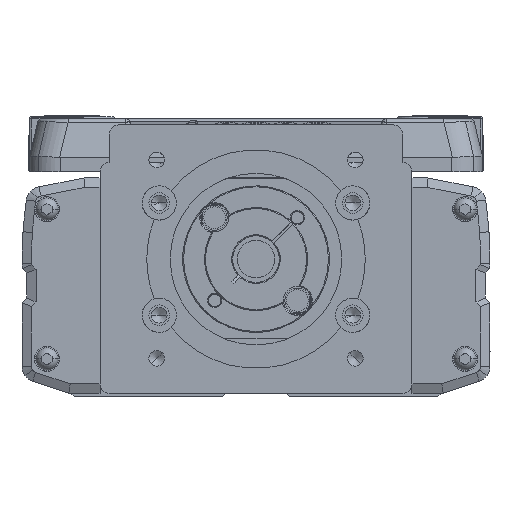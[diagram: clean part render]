
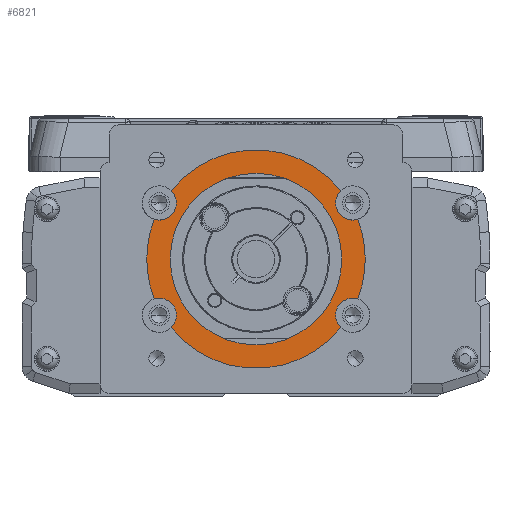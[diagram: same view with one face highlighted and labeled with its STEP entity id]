
A CAD part, left-side view. The second image highlights one B-rep face of the part: STEP entity #6821.
In plain terms, the highlighted planar face has unit normal (-1, 0, 0).
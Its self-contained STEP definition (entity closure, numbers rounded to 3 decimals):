
#6821=ADVANCED_FACE('',(#14572,#14573),#14574,.F.);
#14572=FACE_OUTER_BOUND('',#24554,.T.);
#14573=FACE_BOUND('',#24555,.T.);
#14574=PLANE('',#24556);
#24554=EDGE_LOOP('',(#44403,#44404,#44405,#44406,#44407,#44408,#44409,#44410,#44411,#44412,#44413,#44414,#44415,#44416));
#24555=EDGE_LOOP('',(#44417,#44418));
#24556=AXIS2_PLACEMENT_3D('',#44419,#44420,#44421);
#44403=ORIENTED_EDGE('',*,*,#60346,.F.);
#44404=ORIENTED_EDGE('',*,*,#61173,.T.);
#44405=ORIENTED_EDGE('',*,*,#58006,.T.);
#44406=ORIENTED_EDGE('',*,*,#56352,.F.);
#44407=ORIENTED_EDGE('',*,*,#58673,.F.);
#44408=ORIENTED_EDGE('',*,*,#61174,.T.);
#44409=ORIENTED_EDGE('',*,*,#60156,.F.);
#44410=ORIENTED_EDGE('',*,*,#61175,.F.);
#44411=ORIENTED_EDGE('',*,*,#61176,.T.);
#44412=ORIENTED_EDGE('',*,*,#56680,.T.);
#44413=ORIENTED_EDGE('',*,*,#59126,.F.);
#44414=ORIENTED_EDGE('',*,*,#61177,.F.);
#44415=ORIENTED_EDGE('',*,*,#58599,.T.);
#44416=ORIENTED_EDGE('',*,*,#61178,.F.);
#44417=ORIENTED_EDGE('',*,*,#60136,.F.);
#44418=ORIENTED_EDGE('',*,*,#61179,.F.);
#44419=CARTESIAN_POINT('',(-69.,0.,0.));
#44420=DIRECTION('',(1.0,0.,0.));
#44421=DIRECTION('',(0.,1.0,0.));
#56352=EDGE_CURVE('',#68408,#68410,#68411,.T.);
#56680=EDGE_CURVE('',#68938,#68942,#68944,.T.);
#58006=EDGE_CURVE('',#71024,#68410,#71028,.T.);
#58599=EDGE_CURVE('',#71883,#71880,#71884,.T.);
#58673=EDGE_CURVE('',#71991,#68408,#71993,.T.);
#59126=EDGE_CURVE('',#72629,#68942,#72631,.T.);
#60136=EDGE_CURVE('',#73999,#73995,#74001,.T.);
#60156=EDGE_CURVE('',#74033,#74035,#74036,.T.);
#60346=EDGE_CURVE('',#74286,#74288,#74289,.T.);
#61173=EDGE_CURVE('',#74286,#71024,#75315,.T.);
#61174=EDGE_CURVE('',#71991,#74035,#75316,.T.);
#61175=EDGE_CURVE('',#75317,#74033,#75318,.T.);
#61176=EDGE_CURVE('',#75317,#68938,#75319,.T.);
#61177=EDGE_CURVE('',#71883,#72629,#75320,.T.);
#61178=EDGE_CURVE('',#74288,#71880,#75321,.T.);
#61179=EDGE_CURVE('',#73995,#73999,#75322,.T.);
#68408=VERTEX_POINT('',#84534);
#68410=VERTEX_POINT('',#84537);
#68411=CIRCLE('',#84538,5.5);
#68938=VERTEX_POINT('',#85248);
#68942=VERTEX_POINT('',#85253);
#68944=CIRCLE('',#85256,35.0);
#71024=VERTEX_POINT('',#88411);
#71028=CIRCLE('',#88416,35.0);
#71880=VERTEX_POINT('',#89541);
#71883=VERTEX_POINT('',#89545);
#71884=CIRCLE('',#89546,35.0);
#71991=VERTEX_POINT('',#89681);
#71993=CIRCLE('',#89684,5.5);
#72629=VERTEX_POINT('',#90531);
#72631=CIRCLE('',#90534,5.5);
#73995=VERTEX_POINT('',#92390);
#73999=VERTEX_POINT('',#92395);
#74001=CIRCLE('',#92398,27.5);
#74033=VERTEX_POINT('',#92556);
#74035=VERTEX_POINT('',#92559);
#74036=CIRCLE('',#92560,5.5);
#74286=VERTEX_POINT('',#92918);
#74288=VERTEX_POINT('',#92921);
#74289=CIRCLE('',#92922,5.5);
#75315=CIRCLE('',#94333,35.0);
#75316=CIRCLE('',#94334,35.0);
#75317=VERTEX_POINT('',#94335);
#75318=CIRCLE('',#94336,5.5);
#75319=CIRCLE('',#94337,35.0);
#75320=CIRCLE('',#94338,5.5);
#75321=CIRCLE('',#94339,5.5);
#75322=CIRCLE('',#94340,27.5);
#84534=CARTESIAN_POINT('',(-69.,25.5,-18.));
#84537=CARTESIAN_POINT('',(-69.,32.6,-12.738));
#84538=AXIS2_PLACEMENT_3D('',#101924,#101925,#101926);
#85248=CARTESIAN_POINT('',(-69.,-35.,0.));
#85253=CARTESIAN_POINT('',(-69.,-32.6,12.738));
#85256=AXIS2_PLACEMENT_3D('',#102411,#102412,#102413);
#88411=CARTESIAN_POINT('',(-69.,35.,0.));
#88416=AXIS2_PLACEMENT_3D('',#104382,#104383,#104384);
#89541=CARTESIAN_POINT('',(-69.,27.223,21.998));
#89545=CARTESIAN_POINT('',(-69.,-27.223,21.998));
#89546=AXIS2_PLACEMENT_3D('',#105224,#105225,#105226);
#89681=CARTESIAN_POINT('',(-69.,27.223,-21.998));
#89684=AXIS2_PLACEMENT_3D('',#105340,#105341,#105342);
#90531=CARTESIAN_POINT('',(-69.,-25.5,18.));
#90534=AXIS2_PLACEMENT_3D('',#105961,#105962,#105963);
#92390=CARTESIAN_POINT('',(-69.,27.5,0.));
#92395=CARTESIAN_POINT('',(-69.,-27.5,0.));
#92398=AXIS2_PLACEMENT_3D('',#107296,#107297,#107298);
#92556=CARTESIAN_POINT('',(-69.,-25.5,-18.));
#92559=CARTESIAN_POINT('',(-69.,-27.223,-21.998));
#92560=AXIS2_PLACEMENT_3D('',#107312,#107313,#107314);
#92918=CARTESIAN_POINT('',(-69.,32.6,12.738));
#92921=CARTESIAN_POINT('',(-69.,25.5,18.));
#92922=AXIS2_PLACEMENT_3D('',#107545,#107546,#107547);
#94333=AXIS2_PLACEMENT_3D('',#108549,#108550,#108551);
#94334=AXIS2_PLACEMENT_3D('',#108552,#108553,#108554);
#94335=CARTESIAN_POINT('',(-69.,-32.6,-12.738));
#94336=AXIS2_PLACEMENT_3D('',#108555,#108556,#108557);
#94337=AXIS2_PLACEMENT_3D('',#108558,#108559,#108560);
#94338=AXIS2_PLACEMENT_3D('',#108561,#108562,#108563);
#94339=AXIS2_PLACEMENT_3D('',#108564,#108565,#108566);
#94340=AXIS2_PLACEMENT_3D('',#108567,#108568,#108569);
#101924=CARTESIAN_POINT('',(-69.,31.,-18.));
#101925=DIRECTION('',(-1.0,0.,0.));
#101926=DIRECTION('',(0.,1.0,0.));
#102411=CARTESIAN_POINT('',(-69.,0.,0.));
#102412=DIRECTION('',(-1.0,0.,0.));
#102413=DIRECTION('',(0.,1.0,0.));
#104382=CARTESIAN_POINT('',(-69.,0.,0.));
#104383=DIRECTION('',(-1.0,0.,0.));
#104384=DIRECTION('',(0.,1.0,0.));
#105224=CARTESIAN_POINT('',(-69.,0.,0.));
#105225=DIRECTION('',(-1.0,0.,0.));
#105226=DIRECTION('',(0.,1.0,0.));
#105340=CARTESIAN_POINT('',(-69.,31.,-18.));
#105341=DIRECTION('',(-1.0,0.,0.));
#105342=DIRECTION('',(0.,1.0,0.));
#105961=CARTESIAN_POINT('',(-69.,-31.,18.));
#105962=DIRECTION('',(-1.0,0.,0.));
#105963=DIRECTION('',(0.,-1.0,0.));
#107296=CARTESIAN_POINT('',(-69.,0.,0.));
#107297=DIRECTION('',(-1.0,0.,0.));
#107298=DIRECTION('',(0.,1.0,0.));
#107312=CARTESIAN_POINT('',(-69.,-31.,-18.));
#107313=DIRECTION('',(-1.0,0.,0.));
#107314=DIRECTION('',(0.,-1.0,0.));
#107545=CARTESIAN_POINT('',(-69.,31.,18.));
#107546=DIRECTION('',(-1.0,0.,0.));
#107547=DIRECTION('',(0.,1.0,0.));
#108549=CARTESIAN_POINT('',(-69.,0.,0.));
#108550=DIRECTION('',(-1.0,0.,0.));
#108551=DIRECTION('',(0.,1.0,0.));
#108552=CARTESIAN_POINT('',(-69.,0.,0.));
#108553=DIRECTION('',(-1.0,0.,0.));
#108554=DIRECTION('',(0.,1.0,0.));
#108555=CARTESIAN_POINT('',(-69.,-31.,-18.));
#108556=DIRECTION('',(-1.0,0.,0.));
#108557=DIRECTION('',(0.,-1.0,0.));
#108558=CARTESIAN_POINT('',(-69.,0.,0.));
#108559=DIRECTION('',(-1.0,0.,0.));
#108560=DIRECTION('',(0.,1.0,0.));
#108561=CARTESIAN_POINT('',(-69.,-31.,18.));
#108562=DIRECTION('',(-1.0,0.,0.));
#108563=DIRECTION('',(0.,-1.0,0.));
#108564=CARTESIAN_POINT('',(-69.,31.,18.));
#108565=DIRECTION('',(-1.0,0.,0.));
#108566=DIRECTION('',(0.,1.0,0.));
#108567=CARTESIAN_POINT('',(-69.,0.,0.));
#108568=DIRECTION('',(-1.0,0.,0.));
#108569=DIRECTION('',(0.,1.0,0.));
